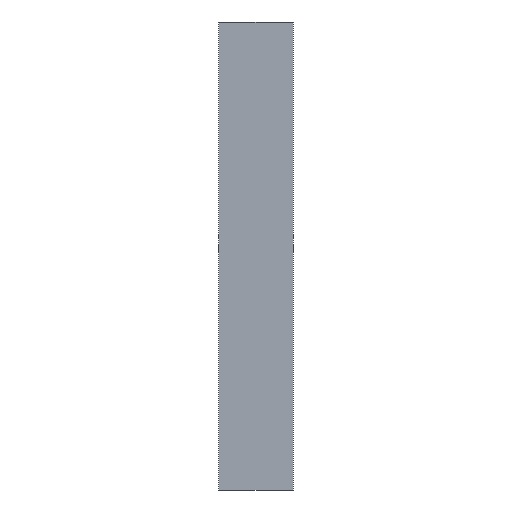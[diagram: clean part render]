
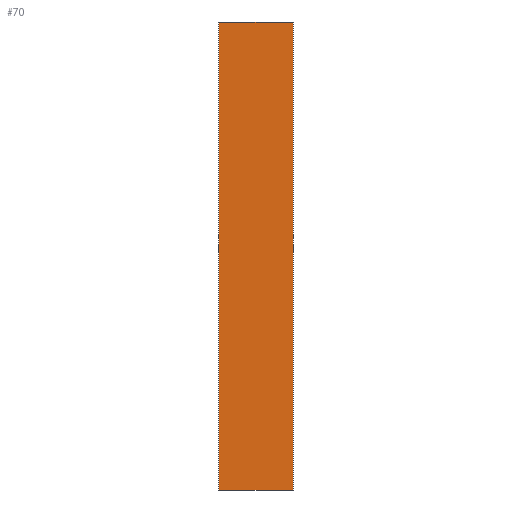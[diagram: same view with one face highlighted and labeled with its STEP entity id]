
A CAD part, front view. The second image highlights one B-rep face of the part: STEP entity #70.
In plain terms, the highlighted planar face has unit normal (0, -1, 0).
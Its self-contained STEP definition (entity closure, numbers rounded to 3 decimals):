
#1 = ORIENTED_EDGE ( 'NONE', *, *, #42, .F. ) ;
#9 = CARTESIAN_POINT ( 'NONE',  ( 0., 0., 150. ) ) ;
#17 = LINE ( 'NONE', #31, #158 ) ;
#31 = CARTESIAN_POINT ( 'NONE',  ( 0., 0., 150. ) ) ;
#33 = CARTESIAN_POINT ( 'NONE',  ( 0., 0., 150. ) ) ;
#35 = ORIENTED_EDGE ( 'NONE', *, *, #104, .F. ) ;
#42 = EDGE_CURVE ( 'NONE', #100, #67, #17, .T. ) ;
#43 = CARTESIAN_POINT ( 'NONE',  ( 24., 0., 0. ) ) ;
#45 = LINE ( 'NONE', #9, #172 ) ;
#47 = DIRECTION ( 'NONE',  ( 0., 1., 0. ) ) ;
#50 = DIRECTION ( 'NONE',  ( 0., 0., 1. ) ) ;
#55 = VECTOR ( 'NONE', #83, 1000. ) ;
#67 = VERTEX_POINT ( 'NONE', #98 ) ;
#70 = ADVANCED_FACE ( 'NONE', ( #163 ), #131, .F. ) ;
#73 = CARTESIAN_POINT ( 'NONE',  ( 0., 0., 0. ) ) ;
#83 = DIRECTION ( 'NONE',  ( 0., 0., -1. ) ) ;
#98 = CARTESIAN_POINT ( 'NONE',  ( 24., 0., 150. ) ) ;
#100 = VERTEX_POINT ( 'NONE', #194 ) ;
#104 = EDGE_CURVE ( 'NONE', #67, #195, #112, .T. ) ;
#107 = EDGE_CURVE ( 'NONE', #132, #195, #165, .T. ) ;
#112 = LINE ( 'NONE', #148, #55 ) ;
#120 = ORIENTED_EDGE ( 'NONE', *, *, #107, .T. ) ;
#131 = PLANE ( 'NONE',  #200 ) ;
#132 = VERTEX_POINT ( 'NONE', #73 ) ;
#133 = DIRECTION ( 'NONE',  ( 1., 0., 0. ) ) ;
#136 = EDGE_LOOP ( 'NONE', ( #120, #35, #1, #179 ) ) ;
#140 = VECTOR ( 'NONE', #133, 1000. ) ;
#148 = CARTESIAN_POINT ( 'NONE',  ( 24., 0., 150. ) ) ;
#149 = DIRECTION ( 'NONE',  ( 1., 0., 0. ) ) ;
#158 = VECTOR ( 'NONE', #149, 1000. ) ;
#161 = DIRECTION ( 'NONE',  ( 0., 0., -1. ) ) ;
#163 = FACE_OUTER_BOUND ( 'NONE', #136, .T. ) ;
#165 = LINE ( 'NONE', #176, #140 ) ;
#172 = VECTOR ( 'NONE', #161, 1000. ) ;
#176 = CARTESIAN_POINT ( 'NONE',  ( 0., 0., 0. ) ) ;
#179 = ORIENTED_EDGE ( 'NONE', *, *, #188, .T. ) ;
#188 = EDGE_CURVE ( 'NONE', #100, #132, #45, .T. ) ;
#194 = CARTESIAN_POINT ( 'NONE',  ( 0., 0., 150. ) ) ;
#195 = VERTEX_POINT ( 'NONE', #43 ) ;
#200 = AXIS2_PLACEMENT_3D ( 'NONE', #33, #47, #50 ) ;
